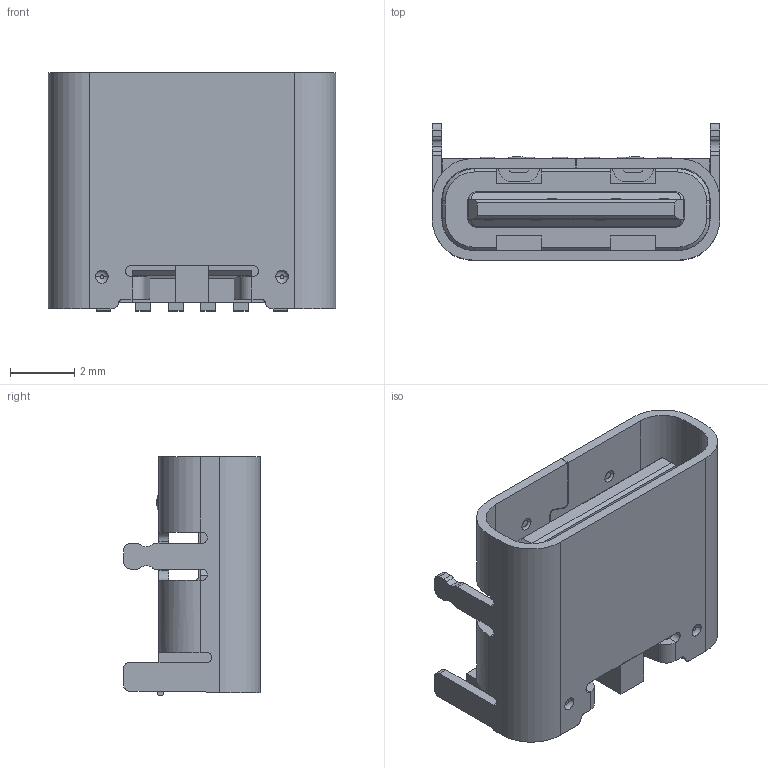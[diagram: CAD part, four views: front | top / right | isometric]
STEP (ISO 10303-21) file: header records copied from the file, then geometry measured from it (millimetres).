
FILE_DESCRIPTION (( 'STEP AP203' ), '1' );
FILE_NAME ('6P-啣奻L7.35.STEP', '2022-01-11T10:57:28', ( 'Microsoft' ), ( 'Microsoft' ), 'SwSTEP 2.0', 'SolidWorks 2018', '' );
FILE_SCHEMA (( 'CONFIG_CONTROL_DESIGN' ));
Length unit declared in the file: millimetre
Products named in the file (2): 錨璃13^17004; 6P-啣奻L7.35
Assembly tree (1 placements, depth 2):
  6P-啣奻L7.35
    錨璃13^17004
Bounding box: 8.94 x 4.26 x 7.43 mm (x, y, z)
Volume: 94.3 mm3; surface area: 493.9 mm2
Topology: 1 solids, 1 shells, 568 faces, 1728 edges, 1138 vertices
Faces by surface type: plane 400, cylinder 134, torus 18, cone 12, bspline 4
Entity records: 19658 total; most frequent: CARTESIAN_POINT 3610, ORIENTED_EDGE 3456, DIRECTION 3196, EDGE_CURVE 1728, VECTOR 1348, LINE 1348, VERTEX_POINT 1138, AXIS2_PLACEMENT_3D 924
